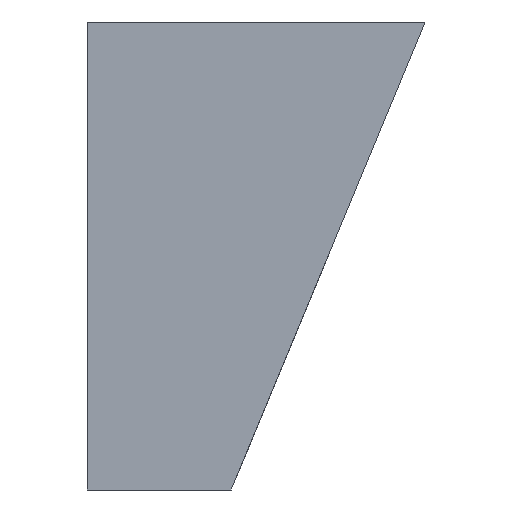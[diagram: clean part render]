
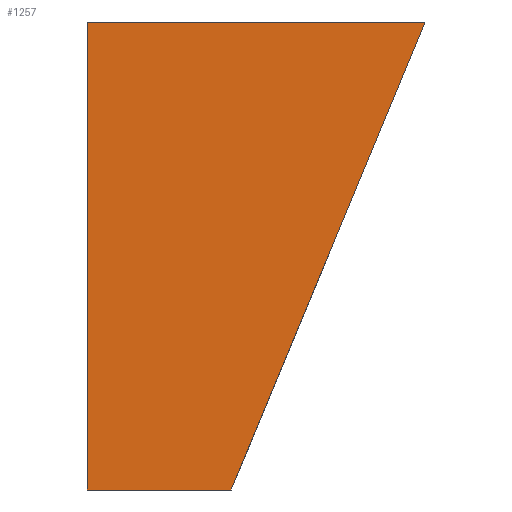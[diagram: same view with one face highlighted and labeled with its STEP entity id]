
A CAD part, front view. The second image highlights one B-rep face of the part: STEP entity #1257.
In plain terms, the highlighted planar face has unit normal (0, -1, 0).
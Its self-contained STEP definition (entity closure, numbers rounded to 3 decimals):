
#12 = LINE ( 'NONE', #918, #1602 ) ;
#57 = EDGE_CURVE ( 'NONE', #664, #1576, #1963, .T. ) ;
#129 = DIRECTION ( 'NONE',  ( 0., 0., 1. ) ) ;
#176 = DIRECTION ( 'NONE',  ( 1., 0., 0. ) ) ;
#285 = EDGE_LOOP ( 'NONE', ( #1945, #2335, #712, #2168 ) ) ;
#399 = LINE ( 'NONE', #2217, #1746 ) ;
#540 = CARTESIAN_POINT ( 'NONE',  ( 6070., 3545., 5170. ) ) ;
#585 = FACE_OUTER_BOUND ( 'NONE', #285, .T. ) ;
#664 = VERTEX_POINT ( 'NONE', #755 ) ;
#712 = ORIENTED_EDGE ( 'NONE', *, *, #57, .F. ) ;
#755 = CARTESIAN_POINT ( 'NONE',  ( 6070., 3545., 4990. ) ) ;
#918 = CARTESIAN_POINT ( 'NONE',  ( 6070., 3545., 5170. ) ) ;
#936 = DIRECTION ( 'NONE',  ( 1., 0., 0. ) ) ;
#1043 = LINE ( 'NONE', #1973, #2263 ) ;
#1117 = EDGE_CURVE ( 'NONE', #1576, #1885, #12, .T. ) ;
#1252 = CARTESIAN_POINT ( 'NONE',  ( 6070., 3545., 5170. ) ) ;
#1257 = ADVANCED_FACE ( 'NONE', ( #585 ), #2638, .F. ) ;
#1271 = DIRECTION ( 'NONE',  ( 0., 1., 0. ) ) ;
#1353 = AXIS2_PLACEMENT_3D ( 'NONE', #2159, #1271, #129 ) ;
#1413 = VERTEX_POINT ( 'NONE', #2466 ) ;
#1531 = DIRECTION ( 'NONE',  ( -0.383, 0., -0.924 ) ) ;
#1576 = VERTEX_POINT ( 'NONE', #1252 ) ;
#1602 = VECTOR ( 'NONE', #936, 1000. ) ;
#1746 = VECTOR ( 'NONE', #176, 1000. ) ;
#1782 = EDGE_CURVE ( 'NONE', #664, #1413, #399, .T. ) ;
#1813 = CARTESIAN_POINT ( 'NONE',  ( 6200., 3545., 5170. ) ) ;
#1885 = VERTEX_POINT ( 'NONE', #1813 ) ;
#1945 = ORIENTED_EDGE ( 'NONE', *, *, #2399, .F. ) ;
#1963 = LINE ( 'NONE', #540, #2842 ) ;
#1973 = CARTESIAN_POINT ( 'NONE',  ( 6180.962, 3545., 5124.038 ) ) ;
#2159 = CARTESIAN_POINT ( 'NONE',  ( 6070., 3545., 5170. ) ) ;
#2168 = ORIENTED_EDGE ( 'NONE', *, *, #1782, .T. ) ;
#2217 = CARTESIAN_POINT ( 'NONE',  ( 6070., 3545., 4990. ) ) ;
#2263 = VECTOR ( 'NONE', #1531, 1000. ) ;
#2335 = ORIENTED_EDGE ( 'NONE', *, *, #1117, .F. ) ;
#2399 = EDGE_CURVE ( 'NONE', #1885, #1413, #1043, .T. ) ;
#2466 = CARTESIAN_POINT ( 'NONE',  ( 6125.442, 3545., 4990. ) ) ;
#2638 = PLANE ( 'NONE',  #1353 ) ;
#2807 = DIRECTION ( 'NONE',  ( 0., 0., 1. ) ) ;
#2842 = VECTOR ( 'NONE', #2807, 1000. ) ;
